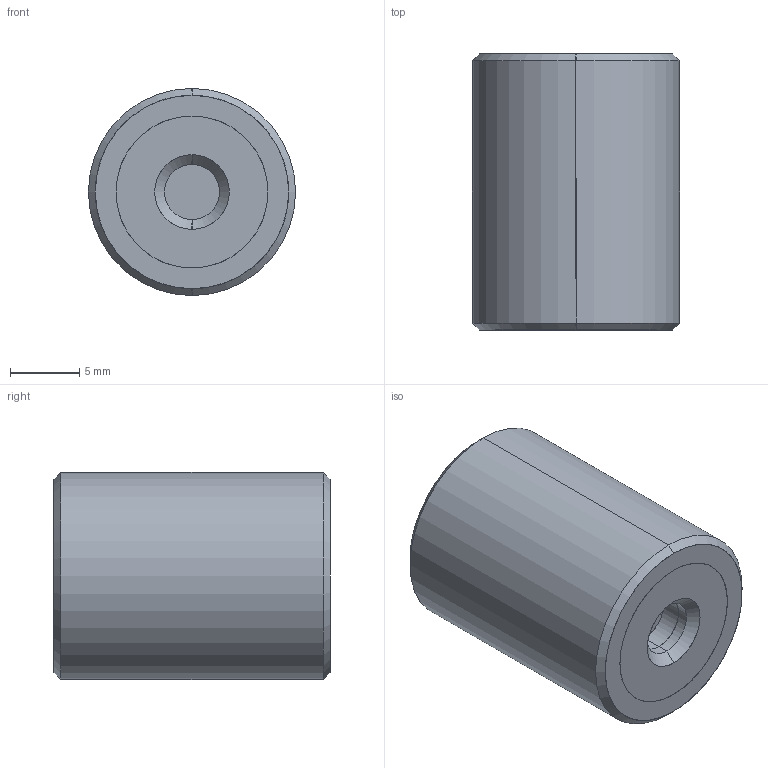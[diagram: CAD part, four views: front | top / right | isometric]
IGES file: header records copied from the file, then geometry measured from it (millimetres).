
Start section: SolidWorks IGES file using analytic representation for surfaces
Global section: file name: E:\WIXROYD 20180701\61080_v2\61080_v2_20180409_IGES\61080.W0152.igs; native system: SolidWorks 2017; preprocessor: SolidWorks 2017; author: liam_; date: 180716.214151; units: millimetre
Bounding box: 15 x 20 x 15 mm (x, y, z)
Surface area: 1871.2 mm2 (no closed solid volume)
Topology: 0 solids, 0 shells, 36 faces, 680 edges, 680 vertices
Faces by surface type: revolution 26, bspline 10
